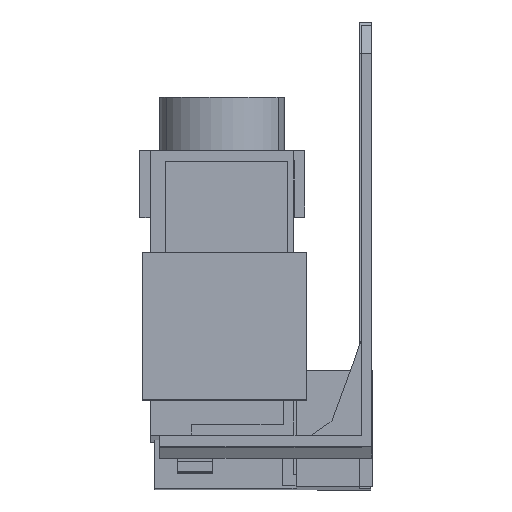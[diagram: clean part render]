
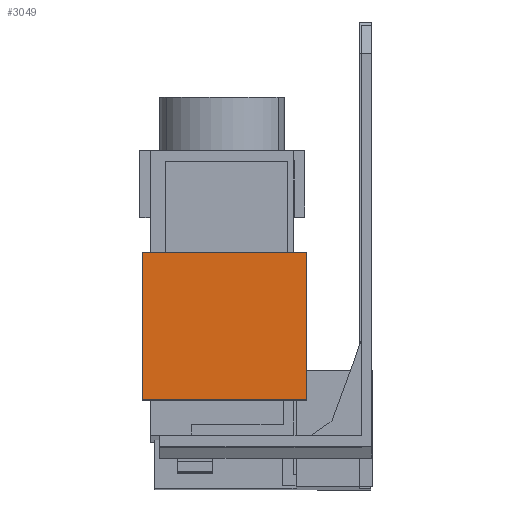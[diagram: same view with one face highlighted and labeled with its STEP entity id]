
A CAD part, front view. The second image highlights one B-rep face of the part: STEP entity #3049.
In plain terms, the highlighted planar face has unit normal (0, -1, 0.003).
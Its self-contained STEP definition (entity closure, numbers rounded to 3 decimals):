
#368 = VERTEX_POINT ( 'NONE', #1475 ) ;
#371 = VERTEX_POINT ( 'NONE', #1478 ) ;
#374 = VERTEX_POINT ( 'NONE', #1481 ) ;
#375 = VERTEX_POINT ( 'NONE', #1455 ) ;
#938 = EDGE_CURVE ( 'NONE', #371, #374, #4786, .T. ) ;
#959 = EDGE_CURVE ( 'NONE', #368, #375, #4831, .T. ) ;
#961 = EDGE_CURVE ( 'NONE', #368, #371, #4835, .T. ) ;
#1140 = EDGE_CURVE ( 'NONE', #375, #374, #5121, .T. ) ;
#1222 = AXIS2_PLACEMENT_3D ( 'NONE', #5678, #5684, #5685 ) ;
#1455 = CARTESIAN_POINT ( 'NONE',  ( -9.3, -31.452, -19.316 ) ) ;
#1475 = CARTESIAN_POINT ( 'NONE',  ( -9.3, -31.509, -40.315 ) ) ;
#1478 = CARTESIAN_POINT ( 'NONE',  ( -32.7, -31.509, -40.315 ) ) ;
#1481 = CARTESIAN_POINT ( 'NONE',  ( -32.7, -31.452, -19.316 ) ) ;
#1837 = EDGE_LOOP ( 'NONE', ( #2600, #2601, #2602, #2603 ) ) ;
#2600 = ORIENTED_EDGE ( 'NONE', *, *, #1140, .T. ) ;
#2601 = ORIENTED_EDGE ( 'NONE', *, *, #938, .F. ) ;
#2602 = ORIENTED_EDGE ( 'NONE', *, *, #961, .F. ) ;
#2603 = ORIENTED_EDGE ( 'NONE', *, *, #959, .T. ) ;
#3049 = ADVANCED_FACE ( 'NONE', ( #5276 ), #5675, .T. ) ;
#3884 = CARTESIAN_POINT ( 'NONE',  ( -32.7, -31.509, -40.315 ) ) ;
#3885 = DIRECTION ( 'NONE',  ( 0., 0.003, 1. ) ) ;
#3921 = CARTESIAN_POINT ( 'NONE',  ( -9.3, -31.509, -40.315 ) ) ;
#3922 = DIRECTION ( 'NONE',  ( 0., 0.003, 1. ) ) ;
#3926 = CARTESIAN_POINT ( 'NONE',  ( -9.3, -31.509, -40.315 ) ) ;
#3927 = DIRECTION ( 'NONE',  ( -1., 0., 0. ) ) ;
#4780 = VECTOR ( 'NONE', #3885, 1000. ) ;
#4786 = LINE ( 'NONE', #3884, #4780 ) ;
#4831 = LINE ( 'NONE', #3921, #4832 ) ;
#4832 = VECTOR ( 'NONE', #3922, 1000. ) ;
#4835 = LINE ( 'NONE', #3926, #4836 ) ;
#4836 = VECTOR ( 'NONE', #3927, 1000. ) ;
#5121 = LINE ( 'NONE', #5388, #5122 ) ;
#5122 = VECTOR ( 'NONE', #5389, 1000. ) ;
#5276 = FACE_OUTER_BOUND ( 'NONE', #1837, .T. ) ;
#5388 = CARTESIAN_POINT ( 'NONE',  ( -9.3, -31.452, -19.316 ) ) ;
#5389 = DIRECTION ( 'NONE',  ( -1., 0., 0. ) ) ;
#5675 = PLANE ( 'NONE',  #1222 ) ;
#5678 = CARTESIAN_POINT ( 'NONE',  ( -9.3, -31.509, -40.315 ) ) ;
#5684 = DIRECTION ( 'NONE',  ( 0., -1., 0.003 ) ) ;
#5685 = DIRECTION ( 'NONE',  ( 1., 0., 0. ) ) ;
